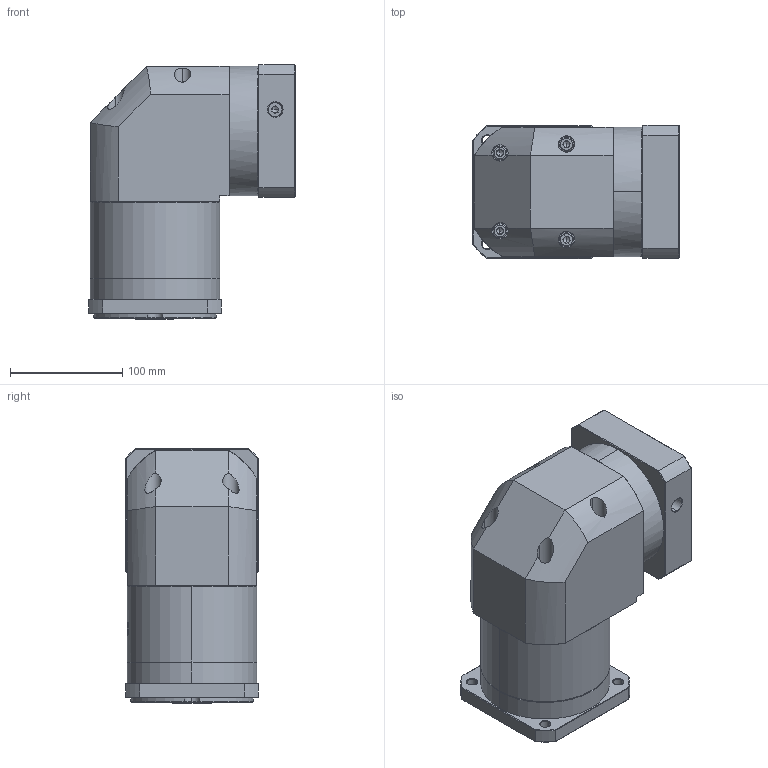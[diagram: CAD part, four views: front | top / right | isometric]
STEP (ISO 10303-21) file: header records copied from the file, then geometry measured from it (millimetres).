
FILE_DESCRIPTION (( 'STEP AP214' ), '1' );
FILE_NAME ('ZFR120A-K25-L2-P2-24-95-115-M6.step', '2023-08-27T08:16:09', ( '' ), ( '' ), 'SwSTEP 2.0', 'SolidWorks 2016', '' );
FILE_SCHEMA (( 'AUTOMOTIVE_DESIGN' ));
Length unit declared in the file: millimetre
Products named in the file (1): ZFR120A-K25-L2-P2-24-95-115-M6
Bounding box: 183.9 x 118 x 226.5 mm (x, y, z)
Volume: 3044946.8 mm3; surface area: 243860 mm2
Topology: 6 solids, 6 shells, 2196 faces, 5785 edges, 3693 vertices
Faces by surface type: plane 1053, bspline 419, cylinder 386, cone 330, torus 8
Entity records: 118957 total; most frequent: CARTESIAN_POINT 45821, ORIENTED_EDGE 11514, DIRECTION 8367, EDGE_CURVE 5757, VERTEX_POINT 3693, VECTOR 3085, LINE 3085, AXIS2_PLACEMENT_3D 2641
